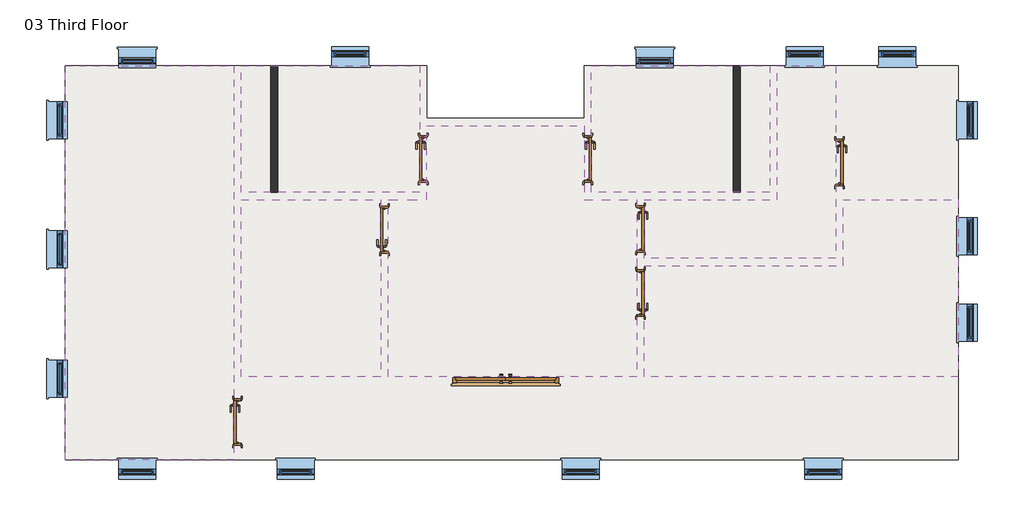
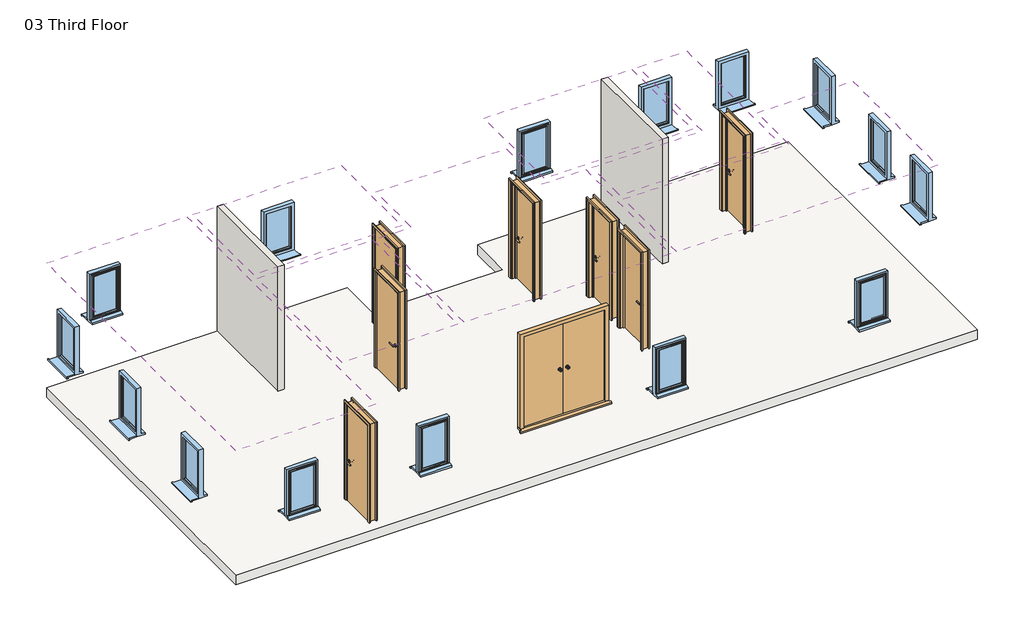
# One storey: 15 windows, 8 doors, 7 coverings, 2 walls, 1 slab.
"""IFC4 building model written with IfcOpenShell, lengths in millimetres."""

from ifc_helpers import new_model, si_unit, frame, origin, place, context, project, spatial, polyline, outline, extrude, transform, mapped, element, save
from components import extdbl_flush_1810_x_2110mm_182ebfd7, intsgl_1_810_x_2110mm_60c2a13c, intsgl_1_810_x_2110mm_5ef26f82, sgl_plain_630_x_1050mm_deep_554a1539

model = new_model("IFC4")

# Units and contexts
model_context = context("Model", 3, world=origin())
ifc_project = project(units=[si_unit("LENGTHUNIT", "METRE", prefix="MILLI")], contexts=[model_context])

# Site, building, storey
site = spatial("IfcSite", under=ifc_project)
building = spatial("IfcBuilding", under=site)
storey = spatial("IfcBuildingStorey", under=building, Name="03 Third Floor", Elevation=7975.6)

# Coverings
placement = place(None, origin())
element("IfcCovering", 1, ObjectType="600 x 600mm grid", at=placement, inside=storey, context=model_context, shape_type="SweptSolid", body=[
    extrude(outline(polyline([(-3433.0198612, 1889.6075821), (-3433.0198612, -4820.3924179), (-6308.0198612, -4820.3924179), (-6308.0198612, 1889.6075821), (-3433.0198612, 1889.6075821)])), frame((0.0, 0.0, 10675.6), z_axis=(0.0, 0.0, 1.0), x_axis=(1.0, 0.0, 0.0)), (0.0, 0.0, 1.0), 52.0),
])
element("IfcCovering", 2, ObjectType="600 x 600mm grid", at=placement, inside=storey, context=model_context, shape_type="SweptSolid", body=[
    extrude(outline(polyline([(-3308.0198612, 1889.6075821), (-270.5198612, 1889.6075821), (-270.5198612, -265.3924179), (-3308.0198612, -265.3924179), (-3308.0198612, 1889.6075821)])), frame((0.0, 0.0, 10675.6), z_axis=(0.0, 0.0, 1.0), x_axis=(1.0, 0.0, 0.0)), (0.0, 0.0, 1.0), 52.0),
])
element("IfcCovering", 3, ObjectType="600 x 600mm grid", at=placement, inside=storey, context=model_context, shape_type="SweptSolid", body=[
    extrude(outline(polyline([(-3308.0198612, -390.3924179), (-933.0198612, -390.3924179), (-933.0198612, -3407.8924179), (-3308.0198612, -3407.8924179), (-3308.0198612, -390.3924179)])), frame((0.0, 0.0, 10675.6), z_axis=(0.0, 0.0, 1.0), x_axis=(1.0, 0.0, 0.0)), (0.0, 0.0, 1.0), 52.0),
])
element("IfcCovering", 4, ObjectType="600 x 600mm grid", at=placement, inside=storey, context=model_context, shape_type="SweptSolid", body=[
    extrude(outline(polyline([(-808.0198612, -390.3924179), (-145.5198612, -390.3924179), (-145.5198612, 872.1075821), (2529.4801388, 872.1075821), (2529.4801388, -390.3924179), (3426.9801388, -390.3924179), (3426.9801388, -3407.8924179), (-808.0198612, -3407.8924179), (-808.0198612, -390.3924179)])), frame((0.0, 0.0, 10675.6), z_axis=(0.0, 0.0, 1.0), x_axis=(1.0, 0.0, 0.0)), (0.0, 0.0, 1.0), 52.0),
])
element("IfcCovering", 5, ObjectType="600 x 600mm grid", at=placement, inside=storey, context=model_context, shape_type="SweptSolid", body=[
    extrude(outline(polyline([(2654.4801388, 1889.6075821), (5691.9801388, 1889.6075821), (5691.9801388, -265.3924179), (2654.4801388, -265.3924179), (2654.4801388, 1889.6075821)])), frame((0.0, 0.0, 10675.6), z_axis=(0.0, 0.0, 1.0), x_axis=(1.0, 0.0, 0.0)), (0.0, 0.0, 1.0), 52.0),
])
element("IfcCovering", 6, ObjectType="600 x 600mm grid", at=placement, inside=storey, context=model_context, shape_type="SweptSolid", body=[
    extrude(outline(polyline([(5816.9801388, 1889.6075821), (6816.9801388, 1889.6075821), (6816.9801388, -1390.3924179), (3551.9801388, -1390.3924179), (3551.9801388, -390.3924179), (5816.9801388, -390.3924179), (5816.9801388, 1889.6075821)])), frame((0.0, 0.0, 10675.6), z_axis=(0.0, 0.0, 1.0), x_axis=(1.0, 0.0, 0.0)), (0.0, 0.0, 1.0), 52.0),
])
element("IfcCovering", 7, ObjectType="600 x 600mm grid", at=placement, inside=storey, context=model_context, shape_type="SweptSolid", body=[
    extrude(outline(polyline([(8901.9801388, -390.3924179), (8901.9801388, -3407.8924179), (3551.9801388, -3407.8924179), (3551.9801388, -1515.3924179), (6941.9801388, -1515.3924179), (6941.9801388, -390.3924179), (8901.9801388, -390.3924179)])), frame((0.0, 0.0, 10675.6), z_axis=(0.0, 0.0, 1.0), x_axis=(1.0, 0.0, 0.0)), (0.0, 0.0, 1.0), 52.0),
])

# Doors
extdbl_flush_1810_x_2110mm_shape = extdbl_flush_1810_x_2110mm_182ebfd7(model_context)
element("IfcDoor", 8, ObjectType="ExtDbl Flush : 1810 x 2110mm", at=placement, inside=storey, context=model_context, shape_type="MappedRepresentation", body=[
    mapped(extdbl_flush_1810_x_2110mm_shape, transform((1196.9801388, -3470.3924179, 7975.6), x_axis=(1.0, 0.0, 0.0), y_axis=(0.0, 1.0, 0.0), z_axis=(0.0, 0.0, 1.0))),
])
intsgl_1_810_x_2110mm_shape = intsgl_1_810_x_2110mm_60c2a13c(model_context)
element("IfcDoor", 9, ObjectType="IntSgl (1) : 810 x 2110mm", at=placement, inside=storey, context=model_context, shape_type="MappedRepresentation", body=[
    mapped(intsgl_1_810_x_2110mm_shape, transform((2591.9801388, 303.3575821, 7975.6), x_axis=(0.0, -1.0, 0.0), y_axis=(1.0, 0.0, 0.0), z_axis=(0.0, 0.0, 1.0))),
])
element("IfcDoor", 10, ObjectType="IntSgl (1) : 810 x 2110mm", at=placement, inside=storey, context=model_context, shape_type="MappedRepresentation", body=[
    mapped(intsgl_1_810_x_2110mm_shape, transform((-870.5198612, -902.8924179, 7975.6), x_axis=(0.0, 1.0, 0.0), y_axis=(-1.0, 0.0, 0.0), z_axis=(0.0, 0.0, 1.0))),
])
element("IfcDoor", 11, ObjectType="IntSgl (1) : 810 x 2110mm", at=placement, inside=storey, context=model_context, shape_type="MappedRepresentation", body=[
    mapped(intsgl_1_810_x_2110mm_shape, transform((3489.4801388, -890.3924179, 7975.6), x_axis=(0.0, -1.0, 0.0), y_axis=(1.0, 0.0, 0.0), z_axis=(0.0, 0.0, 1.0))),
])
intsgl_1_810_x_2110mm_2_shape = intsgl_1_810_x_2110mm_5ef26f82(model_context)
element("IfcDoor", 12, ObjectType="IntSgl (1) : 810 x 2110mm", at=placement, inside=storey, context=model_context, shape_type="MappedRepresentation", body=[
    mapped(intsgl_1_810_x_2110mm_2_shape, transform((-208.0198612, 303.3575821, 7975.6), x_axis=(0.0, -1.0, 0.0), y_axis=(1.0, 0.0, 0.0), z_axis=(0.0, 0.0, 1.0))),
])
element("IfcDoor", 13, ObjectType="IntSgl (1) : 810 x 2110mm", at=placement, inside=storey, context=model_context, shape_type="MappedRepresentation", body=[
    mapped(intsgl_1_810_x_2110mm_2_shape, transform((3489.4801388, -1982.8924179, 7975.6), x_axis=(0.0, 1.0, 0.0), y_axis=(-1.0, 0.0, 0.0), z_axis=(0.0, 0.0, 1.0))),
])
element("IfcDoor", 14, ObjectType="IntSgl (1) : 810 x 2110mm", at=placement, inside=storey, context=model_context, shape_type="MappedRepresentation", body=[
    mapped(intsgl_1_810_x_2110mm_shape, transform((6879.4801388, 239.6075821, 7975.6), x_axis=(0.0, -1.0, 0.0), y_axis=(1.0, 0.0, 0.0), z_axis=(0.0, 0.0, 1.0))),
])
element("IfcDoor", 15, ObjectType="IntSgl (1) : 810 x 2110mm", at=placement, inside=storey, context=model_context, shape_type="MappedRepresentation", body=[
    mapped(intsgl_1_810_x_2110mm_2_shape, transform((-3370.5198612, -4176.6424179, 7975.6), x_axis=(0.0, -1.0, 0.0), y_axis=(1.0, 0.0, 0.0), z_axis=(0.0, 0.0, 1.0))),
])

# Slab
element("IfcSlab", 16, ObjectType="160mm Concrete with Corus-ComFlor 51", at=placement, inside=storey, context=model_context, shape_type="SweptSolid", body=[
    extrude(outline(polyline([(8901.9801388, -4820.3924179), (-6308.0198612, -4820.3924179), (-6308.0198612, 1889.6075821), (-145.5198612, 1889.6075821), (-145.5198612, 997.1075821), (2529.4801388, 997.1075821), (2529.4801388, 1889.6075821), (8901.9801388, 1889.6075821), (8901.9801388, -4820.3924179)])), frame((0.0, 0.0, 7764.6), z_axis=(0.0, 0.0, 1.0), x_axis=(1.0, 0.0, 0.0)), (0.0, 0.0, 1.0), 211.0),
])

# Walls
element("IfcWall", 17, ObjectType="Partn - p 100 p - Block", at=placement, inside=storey, context=model_context, shape_type="SweptSolid", body=[
    extrude(outline(polyline([(5066.9801388, -265.3924179), (5066.9801388, 1889.6075821), (5191.9801388, 1889.6075821), (5191.9801388, -265.3924179), (5066.9801388, -265.3924179)])), frame((0.0, 0.0, 7975.6), z_axis=(0.0, 0.0, 1.0), x_axis=(1.0, 0.0, 0.0)), (0.0, 0.0, 1.0), 2700.0),
])
element("IfcWall", 18, ObjectType="Partn - p 100 p - Block", at=placement, inside=storey, context=model_context, shape_type="SweptSolid", body=[
    extrude(outline(polyline([(-2683.0198612, 1889.6075821), (-2683.0198612, -265.3924179), (-2808.0198612, -265.3924179), (-2808.0198612, 1889.6075821), (-2683.0198612, 1889.6075821)])), frame((0.0, 0.0, 7975.6), z_axis=(0.0, 0.0, 1.0), x_axis=(1.0, 0.0, 0.0)), (0.0, 0.0, 1.0), 2700.0),
])

# Windows
sgl_plain_630_x_1050mm_deep_shape = sgl_plain_630_x_1050mm_deep_554a1539(model_context)
element("IfcWindow", 19, ObjectType="Sgl Plain : 630 x 1050mm Deep", at=placement, inside=storey, context=model_context, shape_type="MappedRepresentation", body=[
    mapped(sgl_plain_630_x_1050mm_deep_shape, transform((6605.7801388, -4956.9358501, 7975.6), x_axis=(-1.0, 0.0, 0.0), y_axis=(0.0, -1.0, 0.0), z_axis=(0.0, 0.0, 1.0))),
])
element("IfcWindow", 20, ObjectType="Sgl Plain : 630 x 1050mm Deep", at=placement, inside=storey, context=model_context, shape_type="MappedRepresentation", body=[
    mapped(sgl_plain_630_x_1050mm_deep_shape, transform((2470.5801388, -4956.9358501, 7975.6), x_axis=(-1.0, 0.0, 0.0), y_axis=(0.0, -1.0, 0.0), z_axis=(0.0, 0.0, 1.0))),
])
element("IfcWindow", 21, ObjectType="Sgl Plain : 630 x 1050mm Deep", at=placement, inside=storey, context=model_context, shape_type="MappedRepresentation", body=[
    mapped(sgl_plain_630_x_1050mm_deep_shape, transform((-2383.4198612, -4956.9358501, 7975.6), x_axis=(-1.0, 0.0, 0.0), y_axis=(0.0, -1.0, 0.0), z_axis=(0.0, 0.0, 1.0))),
])
element("IfcWindow", 22, ObjectType="Sgl Plain : 630 x 1050mm Deep", at=placement, inside=storey, context=model_context, shape_type="MappedRepresentation", body=[
    mapped(sgl_plain_630_x_1050mm_deep_shape, transform((-5078.6198612, -4956.9358501, 7975.6), x_axis=(-1.0, 0.0, 0.0), y_axis=(0.0, -1.0, 0.0), z_axis=(0.0, 0.0, 1.0))),
])
element("IfcWindow", 23, ObjectType="Sgl Plain : 630 x 1050mm Deep", at=placement, inside=storey, context=model_context, shape_type="MappedRepresentation", body=[
    mapped(sgl_plain_630_x_1050mm_deep_shape, transform((-1453.6198612, 2026.1510143, 7975.6), x_axis=(1.0, 0.0, 0.0), y_axis=(0.0, 1.0, 0.0), z_axis=(0.0, 0.0, 1.0))),
])
element("IfcWindow", 24, ObjectType="Sgl Plain : 630 x 1050mm Deep", at=placement, inside=storey, context=model_context, shape_type="MappedRepresentation", body=[
    mapped(sgl_plain_630_x_1050mm_deep_shape, transform((6284.3801388, 2026.1510143, 7975.6), x_axis=(1.0, 0.0, 0.0), y_axis=(0.0, 1.0, 0.0), z_axis=(0.0, 0.0, 1.0))),
])
element("IfcWindow", 25, ObjectType="Sgl Plain : 630 x 1050mm Deep", at=placement, inside=storey, context=model_context, shape_type="MappedRepresentation", body=[
    mapped(sgl_plain_630_x_1050mm_deep_shape, transform((7866.5801388, 2026.1510143, 7975.6), x_axis=(1.0, 0.0, 0.0), y_axis=(0.0, 1.0, 0.0), z_axis=(0.0, 0.0, 1.0))),
])
element("IfcWindow", 26, ObjectType="Sgl Plain : 630 x 1050mm Deep", at=placement, inside=storey, context=model_context, shape_type="MappedRepresentation", body=[
    mapped(sgl_plain_630_x_1050mm_deep_shape, transform((9038.523571, 965.0075821, 7975.6), x_axis=(0.0, -1.0, 0.0), y_axis=(1.0, 0.0, 0.0), z_axis=(0.0, 0.0, 1.0))),
])
element("IfcWindow", 27, ObjectType="Sgl Plain : 630 x 1050mm Deep", at=placement, inside=storey, context=model_context, shape_type="MappedRepresentation", body=[
    mapped(sgl_plain_630_x_1050mm_deep_shape, transform((9038.523571, -1010.1924179, 7975.6), x_axis=(0.0, -1.0, 0.0), y_axis=(1.0, 0.0, 0.0), z_axis=(0.0, 0.0, 1.0))),
])
element("IfcWindow", 28, ObjectType="Sgl Plain : 630 x 1050mm Deep", at=placement, inside=storey, context=model_context, shape_type="MappedRepresentation", body=[
    mapped(sgl_plain_630_x_1050mm_deep_shape, transform((9038.523571, -2483.2924179, 7975.6), x_axis=(0.0, -1.0, 0.0), y_axis=(1.0, 0.0, 0.0), z_axis=(0.0, 0.0, 1.0))),
])
element("IfcWindow", 29, ObjectType="Sgl Plain : 630 x 1050mm Deep", at=placement, inside=storey, context=model_context, shape_type="MappedRepresentation", body=[
    mapped(sgl_plain_630_x_1050mm_deep_shape, transform((-6461.476429, -3438.5924179, 7975.6), x_axis=(0.0, -1.0, 0.0), y_axis=(1.0, 0.0, 0.0), z_axis=(0.0, 0.0, 1.0))),
])
element("IfcWindow", 30, ObjectType="Sgl Plain : 630 x 1050mm Deep", at=placement, inside=storey, context=model_context, shape_type="MappedRepresentation", body=[
    mapped(sgl_plain_630_x_1050mm_deep_shape, transform((-6461.476429, -1233.7924179, 7975.6), x_axis=(0.0, -1.0, 0.0), y_axis=(1.0, 0.0, 0.0), z_axis=(0.0, 0.0, 1.0))),
])
element("IfcWindow", 31, ObjectType="Sgl Plain : 630 x 1050mm Deep", at=placement, inside=storey, context=model_context, shape_type="MappedRepresentation", body=[
    mapped(sgl_plain_630_x_1050mm_deep_shape, transform((-6461.476429, 965.0075821, 7975.6), x_axis=(0.0, -1.0, 0.0), y_axis=(1.0, 0.0, 0.0), z_axis=(0.0, 0.0, 1.0))),
])
element("IfcWindow", 32, ObjectType="Sgl Plain : 630 x 1050mm Deep", at=placement, inside=storey, context=model_context, shape_type="MappedRepresentation", body=[
    mapped(sgl_plain_630_x_1050mm_deep_shape, transform((-5078.6198612, 2043.0641499, 7975.6), x_axis=(-1.0, 0.0, 0.0), y_axis=(0.0, -1.0, 0.0), z_axis=(0.0, 0.0, 1.0))),
])
element("IfcWindow", 33, ObjectType="Sgl Plain : 630 x 1050mm Deep", at=placement, inside=storey, context=model_context, shape_type="MappedRepresentation", body=[
    mapped(sgl_plain_630_x_1050mm_deep_shape, transform((3731.4801388, 2043.0641499, 7975.6), x_axis=(-1.0, 0.0, 0.0), y_axis=(0.0, -1.0, 0.0), z_axis=(0.0, 0.0, 1.0))),
])

save(model, "model.ifc")
